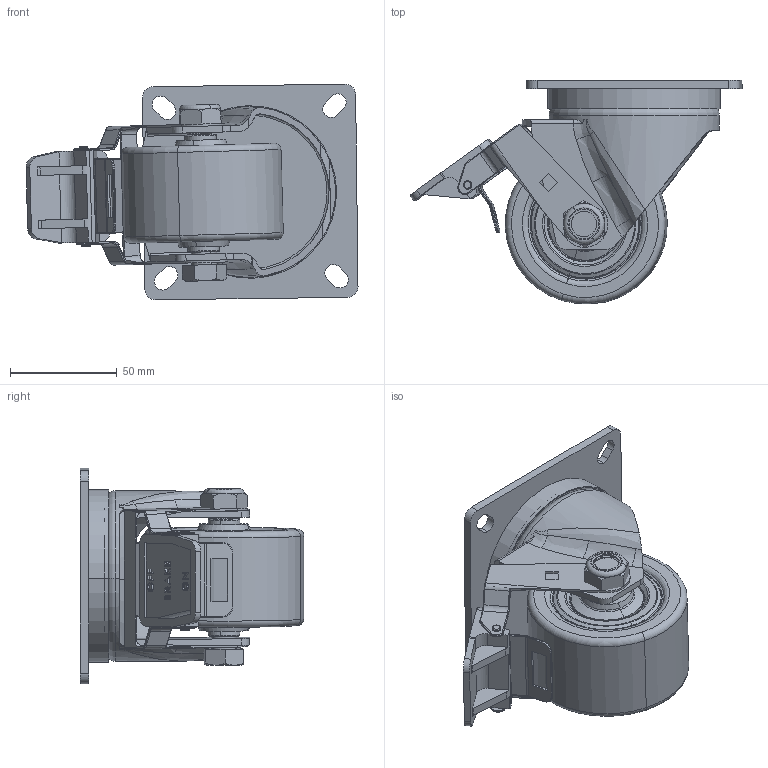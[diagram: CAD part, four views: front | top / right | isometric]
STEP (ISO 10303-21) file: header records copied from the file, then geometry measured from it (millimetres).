
FILE_DESCRIPTION (( 'STEP AP214' ), '1' );
FILE_NAME ('MXN75-P-B.step', '2024-01-17T23:02:28', ( '' ), ( '' ), 'SwSTEP 2.0', 'SolidWorks 2022', '' );
FILE_SCHEMA (( 'AUTOMOTIVE_DESIGN' ));
Length unit declared in the file: millimetre
Products named in the file (8): MXN75; 100X100 PLATE; MXN75-P-B; MXN-TB-75; M12 X 80; SP15-12-55; M12NYLOC
Assembly tree (7 placements, depth 2):
  MXN75-P-B
    M12 X 80
    M12NYLOC
    SP15-12-55
    MXN75
    MXN75-P-B
    MXN-TB-75
    100X100 PLATE
Bounding box: 155.76 x 104.95 x 101.09 mm (x, y, z)
Volume: 363560.1 mm3; surface area: 104523.3 mm2
Topology: 7 solids, 7 shells, 727 faces, 1882 edges, 1208 vertices
Faces by surface type: plane 323, cylinder 184, bspline 115, torus 73, cone 32
Entity records: 33970 total; most frequent: CARTESIAN_POINT 15733, ORIENTED_EDGE 3764, DIRECTION 3165, EDGE_CURVE 1882, VERTEX_POINT 1208, AXIS2_PLACEMENT_3D 1072, VECTOR 1021, LINE 1021
